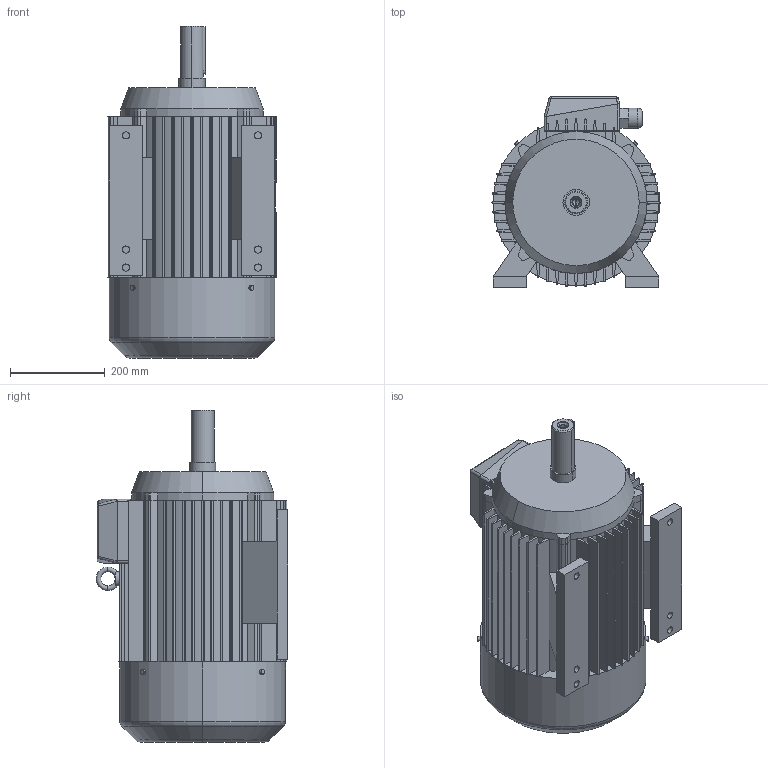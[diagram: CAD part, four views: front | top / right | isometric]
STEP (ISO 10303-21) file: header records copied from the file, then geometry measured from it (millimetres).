
FILE_DESCRIPTION (( 'STEP AP203' ), '1' );
FILE_NAME ('2SIE180M2,4,L4,6.STEP', '2012-10-29T08:24:04', ( 'INDUKTA' ), ( 'CANTONI MOTOR' ), 'SwSTEP 2.0', 'SolidWorks 2003064', '' );
FILE_SCHEMA (( 'CONFIG_CONTROL_DESIGN' ));
Length unit declared in the file: millimetre
Products named in the file (1): 2SIE180M2,4,L4,6
Bounding box: 354.99 x 405 x 701 mm (x, y, z)
Volume: 49905049.6 mm3; surface area: 2056563.1 mm2
Topology: 15 solids, 15 shells, 414 faces, 1083 edges, 693 vertices
Faces by surface type: plane 199, cylinder 181, torus 16, cone 14, sphere 4
Entity records: 13022 total; most frequent: CARTESIAN_POINT 2496, DIRECTION 2278, ORIENTED_EDGE 2154, EDGE_CURVE 1077, AXIS2_PLACEMENT_3D 811, VERTEX_POINT 693, LINE 656, VECTOR 656
